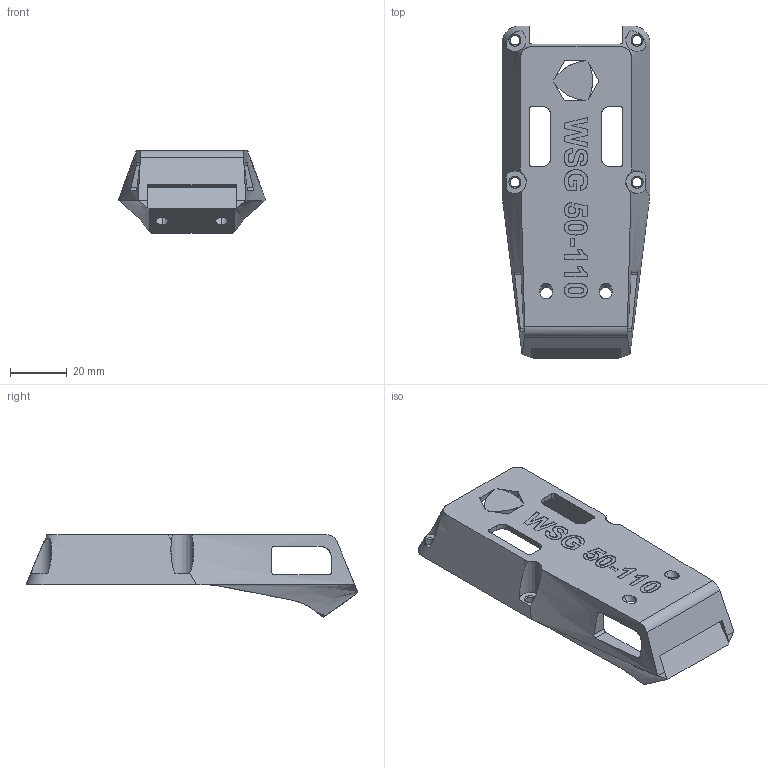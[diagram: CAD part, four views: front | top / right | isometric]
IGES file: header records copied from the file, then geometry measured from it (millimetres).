
Start section: SolidWorks IGES file using analytic representation for surfaces
Global section: file name: C:\Users\richard.denitto.ctr\Desktop\Gripper Finger Mount for WSG 050-110 V2.IGS; native system: SolidWorks 2021; preprocessor: SolidWorks 2021; author: richard.denitto.ctr; date: 220616.155241; units: millimetre
Bounding box: 52 x 116.86 x 29.07 mm (x, y, z)
Surface area: 19344 mm2 (no closed solid volume)
Topology: 0 solids, 0 shells, 249 faces, 4414 edges, 4414 vertices
Faces by surface type: bspline 169, revolution 80
